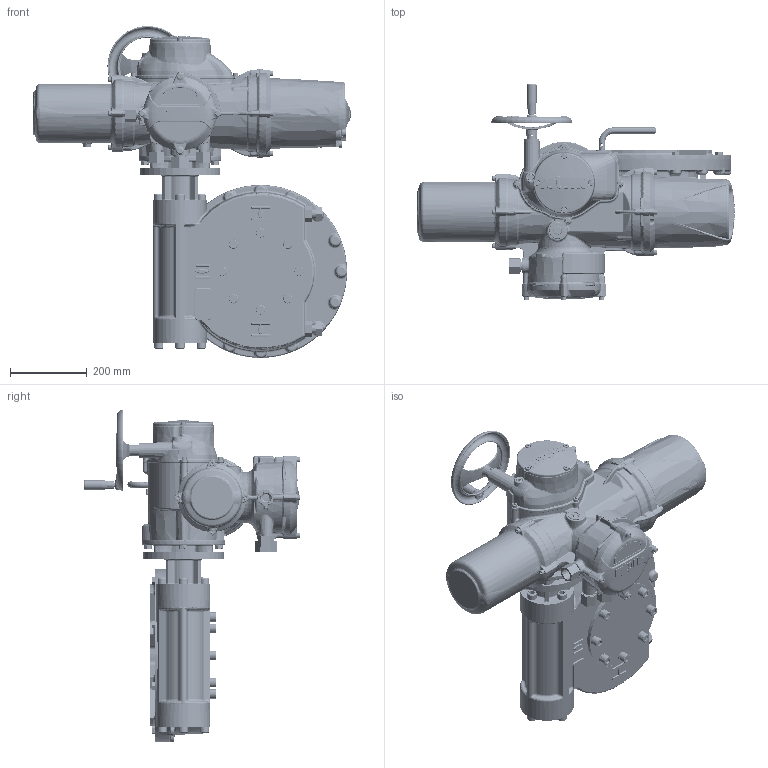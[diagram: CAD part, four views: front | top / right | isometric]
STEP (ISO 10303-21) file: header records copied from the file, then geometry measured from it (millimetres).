
FILE_DESCRIPTION( ( 'Unknown' ), '1' );
FILE_NAME( 'S:/Release/InstallationDrgs-IQmk3/Datasheets for Bishams release program/IQMK3 DATASHEETS/IQ3, IW4- 11 & 13/II3SHWIW7STD-1.stp', 'Unknown', ( 'Unknown' ), ( 'Unknown' ), 'PSStep 16.0.42', 'Unknown', ' ' );
FILE_SCHEMA( ( 'AUTOMOTIVE_DESIGN { 1 0 10303 214 1 1 1 1 }' ) );
Length unit declared in the file: millimetre
Products named in the file (9): II0-20SHORT-std
Bounding box: 825.55 x 563.65 x 863.31 mm (x, y, z)
Volume: 433780 mm3; surface area: 1955782.6 mm2
Topology: 77 solids, 78 shells, 8442 faces, 21189 edges, 12760 vertices
Faces by surface type: plane 2979, bspline 2489, cylinder 1135, torus 822, cone 667, sphere 186, extrusion 128, revolution 21, offset 15
Full cylindrical faces by diameter (mm): 1.152 x1, 3 x8, 4.917 x6, 5.5 x1, 6 x3, 6.2 x2, 6.45 x8, 6.47 x8, 6.5 x1, 7 x4, 7.6 x4, 8 x21, 8.1 x1, 8.2 x1, 8.5 x4, 9.7 x2, 10 x1, 10.45 x4, 10.47 x4, 11.78 x1, 12 x12, 12.1 x1, 12.444 x1, 12.5 x20, 13 x13, 13.25 x8, 14 x9, 15.281 x1, 15.5 x1, 15.84 x1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
Entity records: 715982 total; most frequent: CARTESIAN_POINT 472826, ORIENTED_EDGE 40014, DIRECTION 31030, EDGE_CURVE 20007, VERTEX_POINT 12443, AXIS2_PLACEMENT_3D 12281, EDGE_LOOP 9257, FACE_OUTER_BOUND 8761
